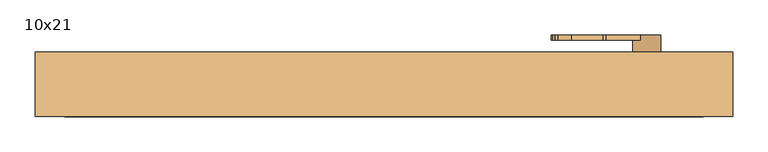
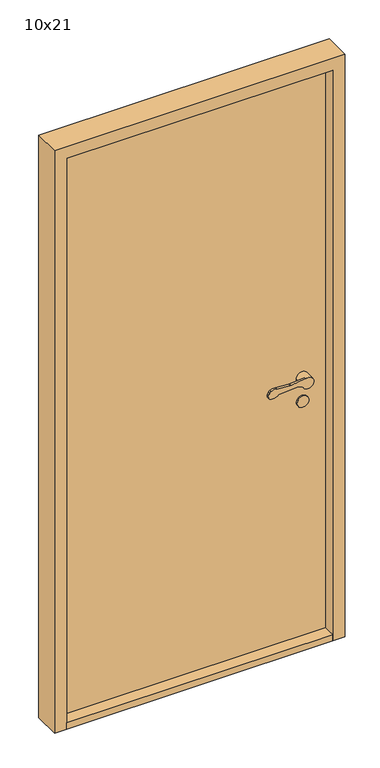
"""IFC4 building model written with IfcOpenShell, lengths in millimetres: door geometry, Innerdør Slett (Diplomat) : 10x21."""

from ifc_helpers import new_model, si_unit, point, frame, frame_2d, origin, origin_with_axes, place, context, project, spatial, polyline, circle_curve, trimmed, segment, composite_curve, outline, extrude, source, transform, mapped, element, save
from ifc_brep_helpers import plane_surface, cylinder_surface, revolved_surface, advanced_brep


def door_10x21_f2746e1a(model_context):
    return source(origin(), model_context, "Body", "SolidModel", [
        advanced_brep(
        [(393.9611305, -9.0, 949.1175955), (408.3841161, -9.0, 942.6204086), (446.379633, -9.0, 951.3474568), (417.2687793, -9.0, 969.1517356), (368.6891233, -9.0, 964.26032), (363.6202158, -9.0, 964.1804415), (318.8963175, -9.0, 967.2639242), (300.3175669, -9.0, 964.8810513), (295.505009, -9.0, 959.9624074), (291.8691983, -9.0, 951.8913379), (296.721536, -9.0, 938.7393398), (326.0476109, -9.0, 943.6260011), (388.8520664, -9.0, 949.9496913), (368.6891233, -1.8915284, 964.26032), (417.2687793, -1.8915284, 969.1517356), (406.379633, -1.8915284, 951.3474568), (408.3841161, -1.8915284, 942.6204086), (393.9611305, -1.8915284, 949.1175955), (388.8520664, -1.8915284, 949.9496913), (326.0476109, -1.8915284, 943.6260011), (296.721536, -1.8915284, 938.7393398), (291.8691983, -1.8915284, 951.8913379), (295.505009, -1.8915284, 959.9624074), (300.3175669, -1.8915284, 964.8810513), (318.8963175, -1.8915284, 967.2639242), (363.6202158, -1.8915284, 964.1804415), (446.379633, 26.0, 951.3474568), (406.379633, 26.0, 951.3474568)],
        [
            (0, 1),
            (1, 2, circle_curve(frame((426.379633, -9.0, 951.3474568), z_axis=(0.0, -1.0, 0.0), x_axis=(-1.0, 0.0, 0.0)), 20.0)),
            (2, 3, circle_curve(frame((426.379633, -9.0, 951.3474568), z_axis=(0.0, -1.0, 0.0), x_axis=(-1.0, 0.0, 0.0)), 20.0)),
            (3, 4),
            (4, 5, circle_curve(frame((365.683663, -9.0, 994.1093938), z_axis=(0.0, 1.0, 0.0), x_axis=(-0.9949691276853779, 0.0, -0.10018200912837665)), 30.0)),
            (5, 6),
            (6, 7, circle_curve(frame((313.2326797, -9.0, 937.8033877), z_axis=(0.0, -1.0, 0.0), x_axis=(-0.9949691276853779, 0.0, -0.10018200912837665)), 30.0)),
            (7, 8, circle_curve(frame((304.6226045, -9.0, 955.8551634), z_axis=(0.0, -1.0, 0.0), x_axis=(-0.9949691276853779, 0.0, -0.10018200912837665)), 10.0)),
            (8, 9),
            (9, 10, circle_curve(frame((300.9867937, -9.0, 947.7840939), z_axis=(0.0, -1.0, 0.0), x_axis=(-0.9949691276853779, 0.0, -0.10018200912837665)), 10.0)),
            (10, 11, circle_curve(frame((307.8569644, -9.0, 962.352734), z_axis=(0.0, -1.0, 0.0), x_axis=(-0.9949691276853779, 0.0, -0.10018200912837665)), 26.1072815)),
            (11, 12),
            (12, 0, circle_curve(frame((389.8538865, -9.0, 940.0), z_axis=(0.0, 1.0, 0.0), x_axis=(-0.9949691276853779, 0.0, -0.10018200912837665)), 10.0)),
            (13, 14),
            (14, 15, circle_curve(frame((426.379633, -1.8915284, 951.3474568), z_axis=(0.0, -1.0, 0.0), x_axis=(-1.0, 0.0, 0.0)), 20.0)),
            (15, 16, circle_curve(frame((426.379633, -1.8915284, 951.3474568), z_axis=(0.0, -1.0, 0.0), x_axis=(-1.0, 0.0, 0.0)), 20.0)),
            (16, 17),
            (17, 18, circle_curve(frame((389.8538865, -1.8915284, 940.0), z_axis=(0.0, -1.0, 0.0), x_axis=(-0.9949691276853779, 0.0, -0.10018200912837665)), 10.0)),
            (18, 19),
            (19, 20, circle_curve(frame((307.8569644, -1.8915284, 962.352734), z_axis=(0.0, 1.0, 0.0), x_axis=(-0.9949691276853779, 0.0, -0.10018200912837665)), 26.1072815)),
            (20, 21, circle_curve(frame((300.9867937, -1.8915284, 947.7840939), z_axis=(0.0, 1.0, 0.0), x_axis=(-0.9949691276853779, 0.0, -0.10018200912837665)), 10.0)),
            (21, 22),
            (22, 23, circle_curve(frame((304.6226045, -1.8915284, 955.8551634), z_axis=(0.0, 1.0, 0.0), x_axis=(-0.9949691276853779, 0.0, -0.10018200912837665)), 10.0)),
            (23, 24, circle_curve(frame((313.2326797, -1.8915284, 937.8033877), z_axis=(0.0, 1.0, 0.0), x_axis=(-0.9949691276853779, 0.0, -0.10018200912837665)), 30.0)),
            (24, 25),
            (25, 13, circle_curve(frame((365.683663, -1.8915284, 994.1093938), z_axis=(0.0, -1.0, 0.0), x_axis=(-0.9949691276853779, 0.0, -0.10018200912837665)), 30.0)),
            (3, 14),
            (13, 4),
            (16, 1),
            (0, 17),
            (12, 18),
            (11, 19),
            (10, 20),
            (9, 21),
            (8, 22),
            (7, 23),
            (6, 24),
            (5, 25),
            (26, 27, circle_curve(frame((426.379633, 26.0, 951.3474568), z_axis=(0.0, 1.0, 0.0), x_axis=(-1.0, 0.0, 0.0)), 20.0)),
            (27, 26, circle_curve(frame((426.379633, 26.0, 951.3474568), z_axis=(0.0, 1.0, 0.0), x_axis=(-1.0, 0.0, 0.0)), 20.0)),
            (26, 2),
            (15, 27),
        ],
        [
            plane_surface(frame((417.6960588, -9.0, 969.1947577), z_axis=(0.0, -1.0000000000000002, 0.0), x_axis=(0.9949691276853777, 0.0, 0.10018200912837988))),
            plane_surface(frame((417.6960588, -1.8915284, 969.1947577), z_axis=(0.0, 1.0000000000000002, 0.0), x_axis=(-0.9949691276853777, 0.0, -0.10018200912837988))),
            plane_surface(frame((368.6891233, -9.0, 964.26032), z_axis=(-0.10018200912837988, 0.0, 0.9949691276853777), x_axis=(0.0, 1.0, 0.0))),
            plane_surface(frame((426.9687366, -9.0, 934.2485115), z_axis=(-0.41072439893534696, 0.0, -0.91175954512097), x_axis=(0.0, 1.0, 0.0))),
            revolved_surface(polyline([(379.9041952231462, -1.8915284, 938.9981799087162), (379.9041952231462, -9.0, 938.9981799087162)]), (389.8538865, -1.8915284, 940.0), (0.0, 1.0, 0.0)),
            plane_surface(frame((388.8520664, -9.0, 949.9496913), z_axis=(0.10018200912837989, 0.0, -0.9949691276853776), x_axis=(0.0, 1.0, 0.0))),
            cylinder_surface(frame((307.8569644, -1.8915284, 962.352734), z_axis=(0.0, -1.0, 0.0), x_axis=(-0.9949691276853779, 0.0, -0.10018200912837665)), 26.1072815),
            cylinder_surface(frame((300.9867937, -1.8915284, 947.7840939), z_axis=(0.0, -1.0, 0.0), x_axis=(-0.9949691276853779, 0.0, -0.10018200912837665)), 10.0),
            plane_surface(frame((291.8691983, -9.0, 951.8913379), z_axis=(-0.9117595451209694, 0.0, 0.41072439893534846), x_axis=(0.0, 1.0, 0.0))),
            cylinder_surface(frame((304.6226045, -1.8915284, 955.8551634), z_axis=(0.0, -1.0, 0.0), x_axis=(-0.9949691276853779, 0.0, -0.10018200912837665)), 10.0),
            cylinder_surface(frame((313.2326797, -1.8915284, 937.8033877), z_axis=(0.0, -1.0, 0.0), x_axis=(-0.9949691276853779, 0.0, -0.10018200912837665)), 30.0),
            plane_surface(frame((318.8963175, -9.0, 967.2639242), z_axis=(0.06878157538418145, 0.0, 0.9976317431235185), x_axis=(0.0, 1.0, 0.0))),
            revolved_surface(polyline([(335.8345891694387, -1.8915284, 991.1039335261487), (335.8345891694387, -9.0, 991.1039335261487)]), (365.683663, -1.8915284, 994.1093938), (0.0, 1.0, 0.0)),
            plane_surface(frame((406.379633, 26.0, 951.3474568), z_axis=(0.0, 1.0, 0.0), x_axis=(0.0, 0.0, -1.0))),
            cylinder_surface(frame((426.379633, 26.0, 951.3474568), z_axis=(0.0, -1.0, 0.0), x_axis=(-1.0, 0.0, 0.0)), 20.0),
        ],
        [
            (0, [[1, 2, 3, 4, 5, 6, 7, 8, 9, 10, 11, 12, 13]]),
            (1, [[14, 15, 16, 17, 18, 19, 20, 21, 22, 23, 24, 25, 26]]),
            (2, [[-4, 27, -14, 28]]),
            (3, [[-17, 29, -1, 30]]),
            (4, [[31, -18, -30, -13]]),
            (5, [[32, -19, -31, -12]]),
            (6, [[33, -20, -32, -11]]),
            (7, [[34, -21, -33, -10]]),
            (8, [[35, -22, -34, -9]]),
            (9, [[36, -23, -35, -8]]),
            (10, [[37, -24, -36, -7]]),
            (11, [[38, -25, -37, -6]]),
            (12, [[-28, -26, -38, -5]]),
            (13, [[39, 40]]),
            (14, [[41, -2, -29, -16, 42, -39]]),
            (14, [[-42, -15, -27, -3, -41, -40]]),
        ],
    ),
        extrude(outline(composite_curve([segment(trimmed(circle_curve(frame_2d((866.3474568, 426.379633)), 20.0), [point((866.3474568, 446.379633))], [point((866.3474568, 406.379633))], False, "CARTESIAN"), True, "CONTINUOUS"), segment(trimmed(circle_curve(frame_2d((866.3474568, 426.379633)), 20.0), [point((866.3474568, 406.379633))], [point((866.3474568, 446.379633))], False, "CARTESIAN"), True, "CONTINUOUS")], self_intersect=False)), frame((0.0, 21.0, 0.0), z_axis=(0.0, 1.0, 0.0), x_axis=(0.0, 0.0, 1.0)), (0.0, 0.0, 1.0), 5.0),
        advanced_brep(
        [(393.9611305, 100.0, 949.1175955), (388.8520664, 100.0, 949.9496913), (326.0476109, 100.0, 943.6260011), (296.721536, 100.0, 938.7393398), (291.8691983, 100.0, 951.8913379), (295.505009, 100.0, 959.9624074), (300.3175669, 100.0, 964.8810513), (318.8963175, 100.0, 967.2639242), (363.6202158, 100.0, 964.1804415), (368.6891233, 100.0, 964.26032), (417.2687793, 100.0, 969.1517356), (446.379633, 100.0, 951.3474568), (408.3841161, 100.0, 942.6204086), (368.6891233, 92.8915284, 964.26032), (363.6202158, 92.8915284, 964.1804415), (318.8963175, 92.8915284, 967.2639242), (300.3175669, 92.8915284, 964.8810513), (295.505009, 92.8915284, 959.9624074), (291.8691983, 92.8915284, 951.8913379), (296.721536, 92.8915284, 938.7393398), (326.0476109, 92.8915284, 943.6260011), (388.8520664, 92.8915284, 949.9496913), (393.9611305, 92.8915284, 949.1175955), (408.3841161, 92.8915284, 942.6204086), (406.379633, 92.8915284, 951.3474568), (417.2687793, 92.8915284, 969.1517356), (446.379633, 65.0, 951.3474568), (406.379633, 65.0, 951.3474568)],
        [
            (0, 1, circle_curve(frame((389.8538865, 100.0, 940.0), z_axis=(0.0, -1.0, 0.0), x_axis=(-0.9949691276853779, 0.0, -0.10018200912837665)), 10.0)),
            (1, 2),
            (2, 3, circle_curve(frame((307.8569644, 100.0, 962.352734), z_axis=(0.0, 1.0, 0.0), x_axis=(-0.9949691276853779, 0.0, -0.10018200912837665)), 26.1072815)),
            (3, 4, circle_curve(frame((300.9867937, 100.0, 947.7840939), z_axis=(0.0, 1.0, 0.0), x_axis=(-0.9949691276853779, 0.0, -0.10018200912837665)), 10.0)),
            (4, 5),
            (5, 6, circle_curve(frame((304.6226045, 100.0, 955.8551634), z_axis=(0.0, 1.0, 0.0), x_axis=(-0.9949691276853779, 0.0, -0.10018200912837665)), 10.0)),
            (6, 7, circle_curve(frame((313.2326797, 100.0, 937.8033877), z_axis=(0.0, 1.0, 0.0), x_axis=(-0.9949691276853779, 0.0, -0.10018200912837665)), 30.0)),
            (7, 8),
            (8, 9, circle_curve(frame((365.683663, 100.0, 994.1093938), z_axis=(0.0, -1.0, 0.0), x_axis=(-0.9949691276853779, 0.0, -0.10018200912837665)), 30.0)),
            (9, 10),
            (10, 11, circle_curve(frame((426.379633, 100.0, 951.3474568), z_axis=(0.0, 1.0, 0.0), x_axis=(-1.0, 0.0, 0.0)), 20.0)),
            (11, 12, circle_curve(frame((426.379633, 100.0, 951.3474568), z_axis=(0.0, 1.0, 0.0), x_axis=(-1.0, 0.0, 0.0)), 20.0)),
            (12, 0),
            (13, 14, circle_curve(frame((365.683663, 92.8915284, 994.1093938), z_axis=(0.0, 1.0, 0.0), x_axis=(-0.9949691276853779, 0.0, -0.10018200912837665)), 30.0)),
            (14, 15),
            (15, 16, circle_curve(frame((313.2326797, 92.8915284, 937.8033877), z_axis=(0.0, -1.0, 0.0), x_axis=(-0.9949691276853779, 0.0, -0.10018200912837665)), 30.0)),
            (16, 17, circle_curve(frame((304.6226045, 92.8915284, 955.8551634), z_axis=(0.0, -1.0, 0.0), x_axis=(-0.9949691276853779, 0.0, -0.10018200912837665)), 10.0)),
            (17, 18),
            (18, 19, circle_curve(frame((300.9867937, 92.8915284, 947.7840939), z_axis=(0.0, -1.0, 0.0), x_axis=(-0.9949691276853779, 0.0, -0.10018200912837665)), 10.0)),
            (19, 20, circle_curve(frame((307.8569644, 92.8915284, 962.352734), z_axis=(0.0, -1.0, 0.0), x_axis=(-0.9949691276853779, 0.0, -0.10018200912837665)), 26.1072815)),
            (20, 21),
            (21, 22, circle_curve(frame((389.8538865, 92.8915284, 940.0), z_axis=(0.0, 1.0, 0.0), x_axis=(-0.9949691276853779, 0.0, -0.10018200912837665)), 10.0)),
            (22, 23),
            (23, 24, circle_curve(frame((426.379633, 92.8915284, 951.3474568), z_axis=(0.0, 1.0, 0.0), x_axis=(-1.0, 0.0, 0.0)), 20.0)),
            (24, 25, circle_curve(frame((426.379633, 92.8915284, 951.3474568), z_axis=(0.0, 1.0, 0.0), x_axis=(-1.0, 0.0, 0.0)), 20.0)),
            (25, 13),
            (9, 13),
            (25, 10),
            (22, 0),
            (12, 23),
            (21, 1),
            (20, 2),
            (19, 3),
            (18, 4),
            (17, 5),
            (16, 6),
            (15, 7),
            (14, 8),
            (26, 27, circle_curve(frame((426.379633, 65.0, 951.3474568), z_axis=(0.0, -1.0, 0.0), x_axis=(-1.0, 0.0, 0.0)), 20.0)),
            (27, 26, circle_curve(frame((426.379633, 65.0, 951.3474568), z_axis=(0.0, -1.0, 0.0), x_axis=(-1.0, 0.0, 0.0)), 20.0)),
            (27, 24),
            (11, 26),
        ],
        [
            plane_surface(frame((417.6960588, 100.0, 969.1947577), z_axis=(0.0, 1.0000000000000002, 0.0), x_axis=(0.9949691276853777, 0.0, 0.10018200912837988))),
            plane_surface(frame((417.6960588, 92.8915284, 969.1947577), z_axis=(0.0, -1.0000000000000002, 0.0), x_axis=(-0.9949691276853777, 0.0, -0.10018200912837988))),
            plane_surface(frame((368.6891233, 100.0, 964.26032), z_axis=(-0.10018200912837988, 0.0, 0.9949691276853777), x_axis=(0.0, -1.0, 0.0))),
            plane_surface(frame((426.9687366, 100.0, 934.2485115), z_axis=(-0.41072439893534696, 0.0, -0.91175954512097), x_axis=(0.0, -1.0, 0.0))),
            revolved_surface(polyline([(379.9041952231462, 92.8915284, 938.9981799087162), (379.9041952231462, 100.0, 938.9981799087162)]), (389.8538865, 92.8915284, 940.0), (0.0, -1.0, 0.0)),
            plane_surface(frame((388.8520664, 100.0, 949.9496913), z_axis=(0.10018200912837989, 0.0, -0.9949691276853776), x_axis=(0.0, -1.0, 0.0))),
            cylinder_surface(frame((307.8569644, 92.8915284, 962.352734), z_axis=(0.0, 1.0, 0.0), x_axis=(-0.9949691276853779, 0.0, -0.10018200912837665)), 26.1072815),
            cylinder_surface(frame((300.9867937, 92.8915284, 947.7840939), z_axis=(0.0, 1.0, 0.0), x_axis=(-0.9949691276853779, 0.0, -0.10018200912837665)), 10.0),
            plane_surface(frame((291.8691983, 100.0, 951.8913379), z_axis=(-0.9117595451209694, 0.0, 0.41072439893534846), x_axis=(0.0, -1.0, 0.0))),
            cylinder_surface(frame((304.6226045, 92.8915284, 955.8551634), z_axis=(0.0, 1.0, 0.0), x_axis=(-0.9949691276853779, 0.0, -0.10018200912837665)), 10.0),
            cylinder_surface(frame((313.2326797, 92.8915284, 937.8033877), z_axis=(0.0, 1.0, 0.0), x_axis=(-0.9949691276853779, 0.0, -0.10018200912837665)), 30.0),
            plane_surface(frame((318.8963175, 100.0, 967.2639242), z_axis=(0.06878157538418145, 0.0, 0.9976317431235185), x_axis=(0.0, -1.0, 0.0))),
            revolved_surface(polyline([(335.8345891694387, 92.8915284, 991.1039335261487), (335.8345891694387, 100.0, 991.1039335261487)]), (365.683663, 92.8915284, 994.1093938), (0.0, -1.0, 0.0)),
            plane_surface(frame((406.379633, 65.0, 951.3474568), z_axis=(0.0, -1.0, 0.0), x_axis=(0.0, 0.0, -1.0))),
            cylinder_surface(frame((426.379633, 65.0, 951.3474568), z_axis=(0.0, 1.0, 0.0), x_axis=(-1.0, 0.0, 0.0)), 20.0),
        ],
        [
            (0, [[1, 2, 3, 4, 5, 6, 7, 8, 9, 10, 11, 12, 13]]),
            (1, [[14, 15, 16, 17, 18, 19, 20, 21, 22, 23, 24, 25, 26]]),
            (2, [[27, -26, 28, -10]]),
            (3, [[29, -13, 30, -23]]),
            (4, [[-1, -29, -22, 31]]),
            (5, [[-2, -31, -21, 32]]),
            (6, [[-3, -32, -20, 33]]),
            (7, [[-4, -33, -19, 34]]),
            (8, [[-5, -34, -18, 35]]),
            (9, [[-6, -35, -17, 36]]),
            (10, [[-7, -36, -16, 37]]),
            (11, [[-8, -37, -15, 38]]),
            (12, [[-9, -38, -14, -27]]),
            (13, [[39, 40]]),
            (14, [[-40, 41, -24, -30, -12, 42]]),
            (14, [[-39, -42, -11, -28, -25, -41]]),
        ],
    ),
        extrude(outline(composite_curve([segment(trimmed(circle_curve(frame_2d((866.3474568, 426.379633)), 20.0), [point((866.3474568, 446.379633))], [point((866.3474568, 406.379633))], False, "CARTESIAN"), True, "CONTINUOUS"), segment(trimmed(circle_curve(frame_2d((866.3474568, 426.379633)), 20.0), [point((866.3474568, 406.379633))], [point((866.3474568, 446.379633))], False, "CARTESIAN"), True, "CONTINUOUS")], self_intersect=False)), frame((0.0, 65.0, 0.0), z_axis=(0.0, 1.0, 0.0), x_axis=(0.0, 0.0, 1.0)), (0.0, 0.0, 1.0), 5.0),
        extrude(outline(polyline([(506.379633, -16.0), (-399.620367, -16.0), (-399.620367, 76.0), (506.379633, 76.0), (506.379633, -16.0)])), origin_with_axes(), (0.0, 0.0, 1.0), 22.0),
        extrude(outline(polyline([(506.379633, 26.0), (-399.620367, 26.0), (-399.620367, 76.0), (506.379633, 76.0), (506.379633, 26.0)])), frame((0.0, 0.0, 22.0), z_axis=(0.0, 0.0, 1.0), x_axis=(1.0, 0.0, 0.0)), (0.0, 0.0, 1.0), 2031.0),
        extrude(outline(polyline([(0.0, -441.620367), (0.0, -399.620367), (2053.0, -399.620367), (2053.0, 506.379633), (0.0, 506.379633), (0.0, 548.379633), (2095.0, 548.379633), (2095.0, -441.620367), (0.0, -441.620367)])), frame((0.0, -16.0, 0.0), z_axis=(0.0, 1.0, 0.0), x_axis=(0.0, 0.0, 1.0)), (0.0, 0.0, 1.0), 92.0),
    ])


if __name__ == "__main__":
    model = new_model("IFC4")
    model_context = context("Model", 3, world=origin())
    ifc_project = project(units=[si_unit("LENGTHUNIT", "METRE", prefix="MILLI")], contexts=[model_context])
    site = spatial("IfcSite", under=ifc_project)
    building = spatial("IfcBuilding", under=site)
    placement = place(None, origin())
    door_10x21_shape = door_10x21_f2746e1a(model_context)
    element("IfcDoor", 1, ObjectType="Innerdør Slett (Diplomat) : 10x21", at=placement, inside=building, context=model_context, shape_type="MappedRepresentation", body=[
        mapped(door_10x21_shape, transform((0.0, 0.0, 0.0), x_axis=(1.0, 0.0, 0.0), y_axis=(0.0, 1.0, 0.0), z_axis=(0.0, 0.0, 1.0))),
    ])
    save(model, "model.ifc")
